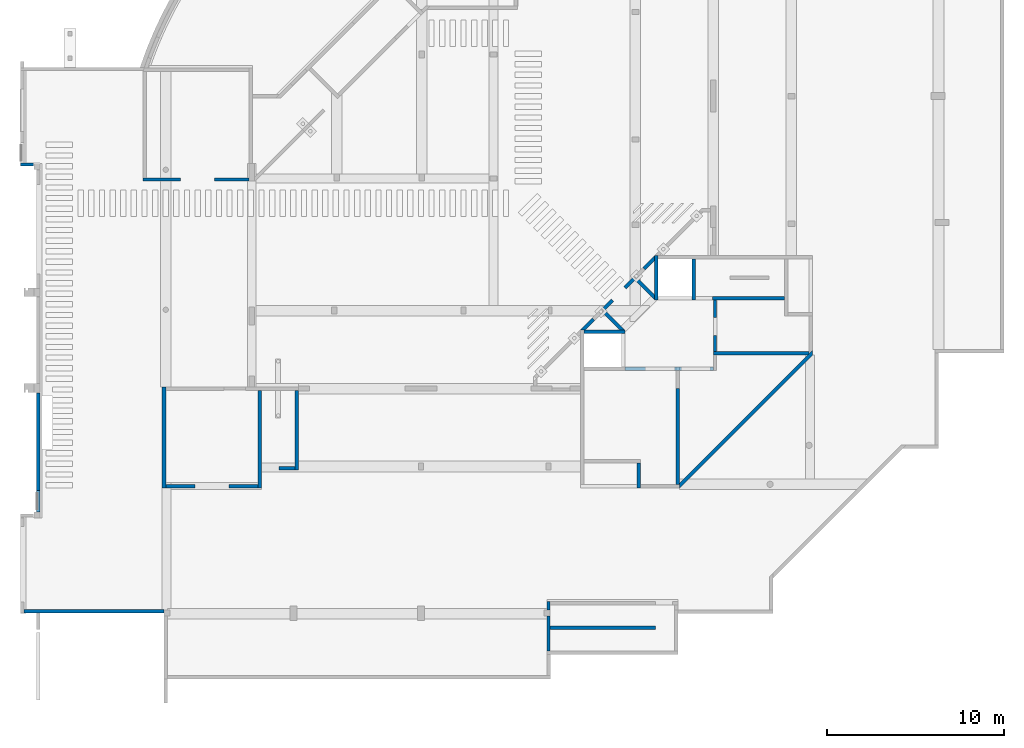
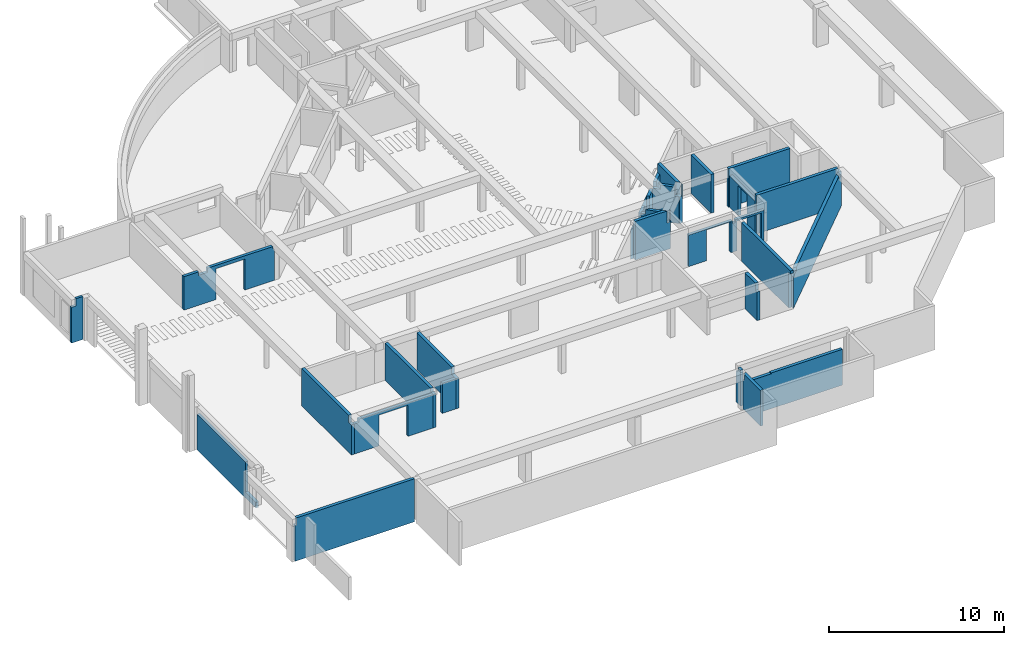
# One storey, part 8 of 12: 27 walls.
"""IFC4X3_ADD2 building model written with IfcOpenShell, lengths in millimetres."""

from ifc_helpers import new_model, si_unit, direction, frame, origin_with_axes, place, context, subcontext, project, spatial, polygons, element, save


model = new_model("IFC4X3_ADD2")

# Units and contexts
model_context = context("Model", 3, precision=1e-05, world=origin_with_axes(), true_north=direction((0.0, 1.0)))
body_context = subcontext(model_context, "Body", "Model", "MODEL_VIEW")
ifc_project = project(units=[si_unit("LENGTHUNIT", "METRE", prefix="MILLI"), si_unit("AREAUNIT", "SQUARE_METRE"), si_unit("VOLUMEUNIT", "CUBIC_METRE"), si_unit("PLANEANGLEUNIT", "RADIAN"), si_unit("TIMEUNIT", "SECOND"), si_unit("MASSUNIT", "GRAM")], contexts=[model_context])

# Site, building, storey
site_placement = place(None, origin_with_axes())
site = spatial("IfcSite", under=ifc_project, at=site_placement, Name="Site", CompositionType="ELEMENT")
building_placement = place(site_placement, origin_with_axes())
building = spatial("IfcBuilding", under=site, at=building_placement, Name="IFC Building Story")
storey_placement = place(building_placement, frame((0.0, 0.0, -5940.0), z_axis=(0.0, 0.0, 1.0), x_axis=(1.0, 0.0, 0.0)))
storey = spatial("IfcBuildingStorey", under=building, at=storey_placement, Name="K20", Elevation=-5940.0)

# Walls
wall_1_placement = place(storey_placement, frame((0.0, 0.0, 5940.0), z_axis=(0.0, 0.0, 1.0), x_axis=(1.0, 0.0, 0.0)))
element("IfcWall", 1, at=wall_1_placement, inside=storey, Name="Basic Wall:BB_XX_Wand uit beton, 200 mm", ObjectType="Basic Wall:BB_XX_Wand uit beton, 200 mm", PredefinedType="SOLIDWALL", context=body_context, shape_type="Tessellation", body=[
    polygons([(-43595.0, 130.0, -6340.0), (-51494.99999999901, 130.0, -6340.0), (-51494.99999999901, 129.9999999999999, -3840.0), (-51394.99965847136, 130.0, -3840.0), (-51394.99965847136, 130.0, -3340.0), (-43699.99999999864, 130.0, -3340.0), (-43699.99999999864, 130.0, -3840.0), (-43595.0, 130.0, -3840.0), (-51494.99999999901, -70.0, -6340.0), (-50794.99999999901, -70.0, -6340.0), (-50604.99999999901, -70.0, -6340.0), (-43595.0, -70.0, -6340.0), (-43595.0, -70.0, -3340.0), (-51394.99965847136, -70.0, -3340.0), (-51394.99965847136, -69.9999999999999, -3840.0), (-51494.99999999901, -70.0, -3840.0), (-43595.0, 95.000000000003, -3840.0), (-43595.0, 95.000000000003, -3340.0), (-43699.99999999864, 95.0000000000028, -3340.0), (-43699.99999999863, 95.0000000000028, -3840.0)], [[[7, 8, 1]], [[7, 1, 4]], [[4, 5, 6]], [[4, 6, 7]], [[1, 2, 4]], [[2, 3, 4]], [[11, 12, 13]], [[11, 13, 14]], [[14, 10, 11]], [[15, 16, 9]], [[15, 9, 10]], [[10, 14, 15]], [[3, 2, 9, 16]], [[5, 4, 15, 14]], [[4, 3, 16, 15]], [[10, 9, 2]], [[2, 11, 10]], [[2, 1, 12]], [[2, 12, 11]], [[17, 18, 13]], [[17, 13, 12]], [[17, 12, 1]], [[1, 8, 17]], [[19, 6, 5]], [[5, 14, 13]], [[5, 13, 19]], [[13, 18, 19]], [[20, 19, 18, 17]], [[20, 17, 8, 7]], [[19, 20, 7, 6]]]),
])
wall_2_placement = place(storey_placement, frame((0.0, 0.0, 5940.0), z_axis=(0.0, 0.0, 1.0), x_axis=(1.0, 0.0, 0.0)))
element("IfcWall", 2, at=wall_2_placement, inside=storey, Name="Basic Wall:BB_XX_Wand uit beton, 200 mm", ObjectType="Basic Wall:BB_XX_Wand uit beton, 200 mm", PredefinedType="SOLIDWALL", context=body_context, shape_type="Tessellation", body=[
    polygons([(-15875.0, -805.0, -5940.0), (-21805.00000000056, -805.0, -5940.0), (-21805.00000000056, -805.0, -3500.0), (-20579.87590418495, -805.0, -3500.0), (-20579.87590418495, -805.0, -3440.0), (-15875.0, -805.0, -3440.0), (-15875.0, -1005.0, -5940.0), (-15875.0, -1005.0, -3440.0), (-20579.87590418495, -1005.0, -3440.0), (-20579.87590418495, -1005.0, -3500.0), (-21805.00000000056, -1005.0, -3500.0), (-21805.00000000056, -1005.0, -5940.0)], [[[4, 5, 6]], [[4, 6, 1]], [[4, 1, 2]], [[2, 3, 4]], [[10, 11, 12]], [[12, 7, 8]], [[12, 8, 10]], [[8, 9, 10]], [[3, 2, 12, 11]], [[2, 1, 7, 12]], [[6, 5, 9, 8]], [[1, 6, 8, 7]], [[4, 3, 11, 10]], [[5, 4, 10, 9]]]),
])
wall_3_placement = place(storey_placement, frame((0.0, 0.0, 5940.0), z_axis=(0.0, 0.0, 1.0), x_axis=(1.0, 0.0, 0.0)))
element("IfcWall", 3, at=wall_3_placement, inside=storey, Name="Basic Wall:BB_XX_Wand uit beton, 200 mm", ObjectType="Basic Wall:BB_XX_Wand uit beton, 200 mm", PredefinedType="SOLIDWALL", context=body_context, shape_type="Tessellation", body=[
    polygons([(-19900.0, 15715.0, -5940.0), (-17594.99999999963, 15715.0, -5940.0), (-17594.99999999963, 15715.0, -3240.0), (-17658.57864376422, 15715.0, -3240.0), (-17658.57864376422, 15715.0, -4070.0), (-17798.92557634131, 15715.0, -4070.0), (-17798.92557634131, 15715.0, -3240.0), (-19900.0, 15715.0, -3240.0), (-17594.99999999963, 15915.0, -5940.0), (-17600.0000000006, 15915.0, -5940.0), (-17868.70057685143, 15915.0, -5940.0), (-19828.04954491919, 15915.0, -5940.0), (-19900.0, 15915.0, -5940.0), (-19900.0, 15915.0, -3240.0), (-17998.92557634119, 15915.0, -3240.0), (-17998.92557634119, 15915.0, -4070.0), (-17594.99999999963, 15915.0, -4070.0), (-17594.99999999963, 15778.57864376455, -4070.0), (-17594.99999999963, 15778.57864376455, -3240.0)], [[[6, 7, 8]], [[8, 1, 2]], [[8, 2, 6]], [[2, 5, 6]], [[2, 3, 5]], [[3, 4, 5]], [[12, 13, 14]], [[16, 11, 12]], [[16, 12, 14]], [[14, 15, 16]], [[16, 17, 10]], [[16, 10, 11]], [[17, 9, 10]], [[10, 9, 2]], [[2, 11, 10]], [[2, 1, 12]], [[2, 12, 11]], [[1, 13, 12]], [[18, 19, 3]], [[18, 3, 2]], [[2, 9, 17]], [[2, 17, 18]], [[4, 3, 19]], [[6, 16, 15, 7]], [[18, 5, 4, 19]], [[16, 6, 5]], [[16, 5, 18]], [[16, 18, 17]], [[13, 1, 8, 14]], [[14, 8, 7, 15]]]),
])
wall_4_placement = place(storey_placement, frame((0.0, 0.0, 5940.0), z_axis=(0.0, 0.0, 1.0), x_axis=(1.0, 0.0, 0.0)))
element("IfcWall", 4, at=wall_4_placement, inside=storey, Name="Basic Wall:BB_XX_Wand uit beton, 200 mm", ObjectType="Basic Wall:BB_XX_Wand uit beton, 200 mm", PredefinedType="SOLIDWALL", context=body_context, shape_type="Tessellation", body=[
    polygons([(-36200.0, 12500.0014785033, -5940.0), (-36200.0, 7999.99999999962, -5940.0), (-36200.0, 7999.99999999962, -3840.0), (-36200.0, 8510.000000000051, -3840.0), (-36200.0, 8510.000000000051, -3340.0), (-36200.0, 12500.0014785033, -3340.0), (-36000.0, 7999.99999999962, -5940.0), (-36000.0, 12450.00000000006, -5940.0), (-36000.0, 12500.0014785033, -5940.0), (-36000.0, 12500.0014785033, -3740.0), (-36000.0, 12500.0014785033, -3340.0), (-36000.0, 8510.000000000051, -3340.0), (-36000.0, 8510.000000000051, -3840.0), (-36000.0, 7999.99999999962, -3840.0)], [[[4, 5, 6]], [[6, 1, 2]], [[6, 2, 4]], [[2, 3, 4]], [[10, 11, 8]], [[8, 9, 10]], [[13, 14, 7]], [[13, 7, 8]], [[13, 8, 11]], [[11, 12, 13]], [[8, 7, 2]], [[8, 2, 1]], [[1, 9, 8]], [[2, 7, 14, 3]], [[11, 6, 5, 12]], [[10, 9, 1]], [[10, 1, 6]], [[6, 11, 10]], [[13, 4, 3, 14]], [[4, 13, 12, 5]]]),
])
wall_5_placement = place(storey_placement, frame((0.0, 0.0, 5940.0), z_axis=(0.0, 0.0, 1.0), x_axis=(1.0, 0.0, 0.0)))
element("IfcWall", 5, at=wall_5_placement, inside=storey, Name="Basic Wall:BB_XX_Wand uit beton, 200 mm", ObjectType="Basic Wall:BB_XX_Wand uit beton, 200 mm", PredefinedType="SOLIDWALL", context=body_context, shape_type="Tessellation", body=[
    polygons([(-38100.0, 7000.0, -5940.0), (-38099.99999999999, 12500.00147850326, -5940.0), (-38099.99999999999, 12500.00147850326, -3340.0), (-38100.0, 7300.000000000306, -3340.0), (-38100.0, 7300.000000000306, -3600.0), (-38100.0, 7000.0, -3600.0), (-38300.0, 12500.00147850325, -5940.0), (-38300.0, 7000.0, -5940.0), (-38300.0, 7000.0, -3600.0), (-38300.0, 7300.000000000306, -3600.0), (-38300.0, 7300.000000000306, -3340.0), (-38300.0, 12500.00147850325, -3340.0)], [[[5, 6, 1]], [[5, 1, 2]], [[5, 2, 3]], [[3, 4, 5]], [[10, 11, 12]], [[12, 7, 8]], [[12, 8, 10]], [[8, 9, 10]], [[2, 1, 8, 7]], [[3, 12, 11, 4]], [[8, 1, 6, 9]], [[3, 2, 7, 12]], [[5, 10, 9, 6]], [[10, 5, 4, 11]]]),
])
wall_6_placement = place(storey_placement, frame((0.0, 0.0, 5940.0), z_axis=(0.0, 0.0, 1.0), x_axis=(1.0, 0.0, 0.0)))
element("IfcWall", 6, at=wall_6_placement, inside=storey, Name="Basic Wall:BB_XX_Wand uit beton, 200 mm", ObjectType="Basic Wall:BB_XX_Wand uit beton, 200 mm", PredefinedType="SOLIDWALL", context=body_context, shape_type="Tessellation", body=[
    polygons([(-43500.00000000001, 7000.0, -5940.0), (-43500.00000000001, 12500.00147850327, -5940.0), (-43500.00000000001, 12700.00147850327, -5940.0), (-43500.00000000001, 12700.00147850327, -3340.0), (-43500.00000000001, 12500.00147850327, -3340.0), (-43500.00000000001, 7300.000000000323, -3340.0), (-43500.00000000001, 7300.000000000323, -3840.0), (-43500.00000000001, 7000.0, -3840.0), (-43700.00000000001, 12700.00147850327, -5940.0), (-43700.00000000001, 7000.0, -5940.0), (-43700.00000000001, 7000.0, -3840.0), (-43700.00000000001, 7300.000000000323, -3840.0), (-43700.00000000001, 7300.000000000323, -3340.0), (-43700.00000000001, 12700.00147850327, -3340.0)], [[[2, 3, 4]], [[2, 4, 5]], [[7, 8, 1]], [[7, 1, 2]], [[7, 2, 5]], [[5, 6, 7]], [[12, 13, 14]], [[14, 9, 10]], [[14, 10, 12]], [[10, 11, 12]], [[2, 1, 10]], [[2, 10, 9]], [[9, 3, 2]], [[5, 4, 14]], [[14, 13, 6]], [[14, 6, 5]], [[10, 1, 8, 11]], [[4, 3, 9, 14]], [[12, 7, 6, 13]], [[7, 12, 11, 8]]]),
])
wall_7_placement = place(storey_placement, frame((0.0, 0.0, 5940.0), z_axis=(0.0, 0.0, 1.0), x_axis=(1.0, 0.0, 0.0)))
element("IfcWall", 7, at=wall_7_placement, inside=storey, Name="Basic Wall:BB_XX_Wand uit beton, 200 mm", ObjectType="Basic Wall:BB_XX_Wand uit beton, 200 mm", PredefinedType="SOLIDWALL", context=body_context, shape_type="Tessellation", body=[
    polygons([(-16900.0, 8400.0, -5940.0), (-16900.0, 7000.00000000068, -5940.0), (-16900.0, 7000.00000000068, -3940.0), (-16900.0, 7200.00000000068, -3940.0), (-16900.0, 7200.00000000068, -3440.0), (-16900.0, 8400.0, -3440.0), (-16700.0, 8400.0, -5940.0), (-16700.0, 8400.0, -3440.0), (-16700.0, 7200.00000000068, -3440.0), (-16700.0, 7200.00000000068, -3940.0), (-16700.0, 7000.00000000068, -3940.0), (-16700.0, 7000.00000000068, -5940.0), (-16700.0, 7200.00000000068, -5940.0)], [[[4, 5, 6]], [[6, 1, 2]], [[6, 2, 4]], [[2, 3, 4]], [[10, 11, 12]], [[10, 12, 13]], [[10, 13, 7]], [[10, 7, 8]], [[8, 9, 10]], [[1, 6, 8, 7]], [[3, 2, 12, 11]], [[13, 12, 2]], [[2, 1, 7]], [[2, 7, 13]], [[6, 5, 9, 8]], [[4, 3, 11, 10]], [[5, 4, 10, 9]]]),
])
wall_8_placement = place(storey_placement, frame((0.0, 0.0, 5940.0), z_axis=(0.0, 0.0, 1.0), x_axis=(1.0, 0.0, 0.0)))
element("IfcWall", 8, at=wall_8_placement, inside=storey, Name="Basic Wall:BB_XX_Wand uit beton, 200 mm", ObjectType="Basic Wall:BB_XX_Wand uit beton, 200 mm", PredefinedType="SOLIDWALL", context=body_context, shape_type="Tessellation", body=[
    polygons([(-14500.0, 7200.000000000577, -5940.0), (-14500.0, 7282.842712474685, -5940.0), (-14500.0, 12600.00000000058, -5940.0), (-14500.0, 12600.00000000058, -3240.0), (-14500.0, 7000.0, -3240.0), (-14500.0, 7000.0, -3440.0), (-14500.0, 7200.000000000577, -3440.0), (-14500.0, 7200.000000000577, -3940.0), (-14700.0, 7200.000000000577, -5940.0), (-14700.0, 7200.000000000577, -3440.0), (-14700.0, 7000.0, -3440.0), (-14700.0, 7000.0, -3240.0), (-14700.0, 12600.00000000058, -3240.0), (-14700.0, 12600.00000000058, -5940.0)], [[[8, 2, 3]], [[8, 3, 4]], [[4, 7, 8]], [[4, 5, 7]], [[5, 6, 7]], [[8, 1, 2]], [[10, 11, 12]], [[10, 12, 13]], [[13, 14, 9]], [[13, 9, 10]], [[2, 1, 9]], [[9, 14, 3]], [[9, 3, 2]], [[4, 3, 14, 13]], [[5, 4, 13, 12]], [[6, 11, 10, 7]], [[8, 7, 10]], [[10, 9, 1]], [[10, 1, 8]], [[6, 5, 12, 11]]]),
])
wall_9_placement = place(storey_placement, frame((0.0, 0.0, 5940.0), z_axis=(0.0, 0.0, 1.0), x_axis=(1.0, 0.0, 0.0)))
element("IfcWall", 9, at=wall_9_placement, inside=storey, Name="Basic Wall:BB_XX_Wand uit beton, 200 mm", ObjectType="Basic Wall:BB_XX_Wand uit beton, 200 mm", PredefinedType="SOLIDWALL", context=body_context, shape_type="Tessellation", body=[
    polygons([(-15715.0, 17600.0, -5940.0), (-15715.0, 19899.99999999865, -5940.0), (-15715.0, 20099.99999999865, -5940.0), (-15715.0, 20099.99999999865, -3240.0), (-15715.0, 19899.99999999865, -3240.0), (-15715.0, 17799.99999999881, -3240.0), (-15715.0, 17799.99999999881, -4070.0), (-15715.0, 17658.57864376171, -4070.0), (-15715.0, 17658.57864376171, -3240.0), (-15715.0, 17600.0, -3240.0), (-15915.0, 20099.99999999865, -5940.0), (-15915.0, 20089.20151523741, -5940.0), (-15915.0, 19828.04954491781, -5940.0), (-15915.0, 17868.70057684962, -5940.0), (-15915.0, 17600.0, -5940.0), (-15915.0, 17600.0, -4070.0), (-15915.0, 17999.99999999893, -4070.0), (-15915.0, 17999.99999999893, -3240.0), (-15915.0, 20099.99999999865, -3240.0), (-15773.57864376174, 17600.0, -3240.0), (-15773.57864376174, 17600.0, -4070.0)], [[[2, 3, 4]], [[2, 4, 5]], [[8, 9, 10]], [[8, 10, 1]], [[1, 7, 8]], [[7, 1, 2]], [[7, 2, 5]], [[5, 6, 7]], [[14, 15, 16]], [[14, 16, 17]], [[17, 18, 19]], [[19, 13, 14]], [[19, 14, 17]], [[19, 12, 13]], [[19, 11, 12]], [[14, 13, 2]], [[14, 2, 1]], [[1, 15, 14]], [[12, 11, 3]], [[3, 2, 13]], [[3, 13, 12]], [[5, 4, 19]], [[19, 18, 6]], [[19, 6, 5]], [[21, 16, 15]], [[21, 15, 1]], [[1, 10, 21]], [[10, 20, 21]], [[17, 7, 6, 18]], [[7, 17, 16]], [[7, 16, 21]], [[7, 21, 8]], [[8, 21, 20, 9]], [[3, 11, 19, 4]], [[10, 9, 20]]]),
])
wall_10_placement = place(storey_placement, frame((0.0, 0.0, 5940.0), z_axis=(0.0, 0.0, 1.0), x_axis=(1.0, 0.0, 0.0)))
element("IfcWall", 10, at=wall_10_placement, inside=storey, Name="Basic Wall:BB_XX_Wand uit beton, 200 mm", ObjectType="Basic Wall:BB_XX_Wand uit beton, 200 mm", PredefinedType="SOLIDWALL", context=body_context, shape_type="Tessellation", body=[
    polygons([(-7200.0, 14700.0, -5940.0), (-12599.99999999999, 14700.0, -5940.0), (-12599.99999999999, 14700.0, -3240.0), (-7200.0, 14700.0, -3240.0), (-7200.0, 14700.0, -3500.0), (-7282.842712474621, 14500.0, -5940.0), (-7282.842712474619, 14500.0, -3500.0), (-7200.0, 14500.0, -3500.0), (-7200.0, 14500.0, -3240.0), (-12599.99999999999, 14500.0, -3240.0), (-12599.99999999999, 14500.0, -5940.0), (-7200.0, 14582.84271247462, -5940.0), (-7200.0, 14582.84271247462, -3240.0), (-7200.0, 14582.84271247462, -3500.0)], [[[5, 1, 2]], [[5, 2, 3]], [[3, 4, 5]], [[7, 8, 9]], [[7, 9, 10]], [[10, 11, 6]], [[10, 6, 7]], [[2, 1, 12]], [[2, 12, 6]], [[2, 6, 11]], [[3, 2, 11, 10]], [[13, 4, 3]], [[13, 3, 10]], [[10, 9, 13]], [[14, 8, 7]], [[1, 5, 14, 12]], [[14, 7, 6, 12]], [[13, 9, 8]], [[13, 8, 14]], [[14, 5, 4]], [[14, 4, 13]]]),
])
wall_11_placement = place(storey_placement, frame((0.0, 0.0, 5940.0), z_axis=(0.0, 0.0, 1.0), x_axis=(1.0, 0.0, 0.0)))
element("IfcWall", 11, at=wall_11_placement, inside=storey, Name="Basic Wall:BB_XX_Wand uit beton, 200 mm", ObjectType="Basic Wall:BB_XX_Wand uit beton, 200 mm", PredefinedType="SOLIDWALL", context=body_context, shape_type="Tessellation", body=[
    polygons([(-8600.0, 17800.0, -5940.0), (-12651.00000000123, 17800.0, -5940.0), (-12651.00000000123, 17800.0, -3880.0), (-12655.00000000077, 17800.0, -3880.0), (-12655.00000000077, 17800.0, -3240.0), (-8600.0, 17800.0, -3240.0), (-12651.00000000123, 17600.0, -5940.0), (-8600.0, 17600.0, -5940.0), (-8600.0, 17600.0, -3240.0), (-12655.00000000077, 17600.0, -3240.0), (-12655.00000000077, 17600.0, -3880.0), (-12651.00000000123, 17600.0, -3880.0)], [[[3, 4, 5]], [[3, 5, 6]], [[6, 1, 2]], [[6, 2, 3]], [[12, 7, 8]], [[12, 8, 9]], [[9, 10, 12]], [[10, 11, 12]], [[1, 6, 9, 8]], [[3, 12, 11, 4]], [[2, 1, 8, 7]], [[9, 6, 5, 10]], [[12, 3, 2, 7]], [[5, 4, 11, 10]]]),
])
wall_12_placement = place(storey_placement, frame((0.0, 0.0, 5940.0), z_axis=(0.0, 0.0, 1.0), x_axis=(1.0, 0.0, 0.0)))
element("IfcWall", 12, at=wall_12_placement, inside=storey, Name="Basic Wall:BB_XX_Wand uit beton, 200 mm", ObjectType="Basic Wall:BB_XX_Wand uit beton, 200 mm", PredefinedType="SOLIDWALL", context=body_context, shape_type="Tessellation", body=[
    polygons([(-13815.0, 19900.0, -5940.0), (-13815.0, 17600.00000000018, -5940.0), (-13815.0, 17600.00000000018, -3240.0), (-13815.0, 19900.0, -3240.0), (-13615.0, 19900.0, -5940.0), (-13615.0, 19900.0, -3240.0), (-13615.0, 17600.00000000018, -3240.0), (-13615.0, 17600.00000000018, -5940.0)], [[[1, 2, 3, 4]], [[5, 6, 7, 8]], [[2, 1, 5, 8]], [[4, 3, 7, 6]], [[1, 4, 6, 5]], [[3, 2, 8, 7]]]),
])
wall_13_placement = place(storey_placement, frame((0.0, 0.0, 5940.0), z_axis=(0.0, 0.0, 1.0), x_axis=(1.0, 0.0, 0.0)))
element("IfcWall", 13, at=wall_13_placement, inside=storey, Name="Basic Wall:BB_XX_Wand uit beton, 190 mm", ObjectType="Basic Wall:BB_XX_Wand uit beton, 190 mm", PredefinedType="SOLIDWALL", context=body_context, shape_type="Tessellation", body=[
    polygons([(-21805.0, -2205.0, -5940.0), (-21805.0, -1005.0, -5940.0), (-21805.0, -805.0, -5940.0), (-21805.0, -245.00000000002, -5940.0), (-21805.0, -245.00000000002, -3440.0), (-21805.0, -2205.0, -3440.0), (-21995.0, -245.00000000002, -5940.0), (-21995.0, -2205.0, -5940.0), (-21995.0, -2205.0, -3440.0), (-21995.0, -405.00000000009, -3440.0), (-21995.0, -405.00000000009, -3840.0), (-21995.0, -245.00000000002, -3840.0), (-21974.99999999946, -245.00000000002, -3840.0), (-21974.99999999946, -245.00000000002, -3440.0), (-21974.99999999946, -405.00000000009, -3440.0), (-21974.99999999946, -405.00000000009, -3840.0)], [[[3, 4, 5]], [[5, 2, 3]], [[5, 6, 1]], [[5, 1, 2]], [[11, 12, 7]], [[11, 7, 8]], [[11, 8, 9]], [[9, 10, 11]], [[2, 1, 8]], [[2, 8, 7]], [[7, 3, 2]], [[7, 4, 3]], [[13, 14, 5]], [[5, 4, 7]], [[5, 7, 13]], [[7, 12, 13]], [[15, 10, 9]], [[9, 6, 5]], [[9, 5, 15]], [[5, 14, 15]], [[1, 6, 9, 8]], [[13, 16, 15, 14]], [[15, 16, 11, 10]], [[16, 13, 12, 11]]]),
])
wall_14_placement = place(storey_placement, frame((0.0, 0.0, 5940.0), z_axis=(0.0, 0.0, 1.0), x_axis=(1.0, 0.0, 0.0)))
element("IfcWall", 14, at=wall_14_placement, inside=storey, Name="Basic Wall:BB_XX_Wand uit beton, 170 mm", ObjectType="Basic Wall:BB_XX_Wand uit beton, 170 mm", PredefinedType="SOLIDWALL", context=body_context, shape_type="Tessellation", body=[
    polygons([(-21805.0, 95.0, -5940.0), (-21805.0, 394.999999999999, -5940.0), (-21805.0, 594.999999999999, -5940.0), (-21805.0, 594.999999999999, -3750.0), (-21805.0, 394.999999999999, -3750.0), (-21805.0, 394.999999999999, -3440.0), (-21805.0, 95.0, -3440.0), (-21975.0, 595.0, -5940.0), (-21975.0, 95.0, -5940.0), (-21975.0, 95.0, -3440.0), (-21975.0, 395.0, -3440.0), (-21975.00000000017, 395.0, -3750.0), (-21975.0, 595.0, -3750.0)], [[[2, 3, 4]], [[2, 4, 5]], [[5, 6, 7]], [[7, 1, 2]], [[7, 2, 5]], [[12, 13, 8]], [[8, 9, 10]], [[8, 10, 12]], [[10, 11, 12]], [[2, 1, 9]], [[2, 9, 8]], [[8, 3, 2]], [[10, 7, 6, 11]], [[1, 7, 10, 9]], [[3, 8, 13, 4]], [[5, 12, 11, 6]], [[12, 5, 4, 13]]]),
])
wall_15_placement = place(storey_placement, frame((0.0, 0.0, 5940.0), z_axis=(0.0, 0.0, 1.0), x_axis=(1.0, 0.0, 0.0)))
element("IfcWall", 15, at=wall_15_placement, inside=storey, Name="Basic Wall:BB_XX_Wand uit beton, 170 mm", ObjectType="Basic Wall:BB_XX_Wand uit beton, 170 mm", PredefinedType="SOLIDWALL", context=body_context, shape_type="Tessellation", body=[
    polygons([(-50955.0, 25330.0, -6340.0), (-51694.99999999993, 25330.0, -6340.0), (-51694.99999999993, 25330.0, -3840.0), (-51394.99999999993, 25330.00000000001, -3840.0), (-51394.99999999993, 25330.00000000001, -3340.0), (-50955.0, 25330.0, -3340.0), (-51694.99999999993, 25160.0, -6340.0), (-50955.0, 25160.0, -6340.0), (-50955.0, 25160.0, -3340.0), (-51394.99999999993, 25160.00000000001, -3340.0), (-51394.99999999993, 25160.00000000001, -3840.0), (-51694.99999999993, 25160.0, -3840.0)], [[[4, 5, 6]], [[4, 6, 1]], [[4, 1, 2]], [[2, 3, 4]], [[11, 12, 7]], [[7, 8, 9]], [[7, 9, 11]], [[9, 10, 11]], [[2, 1, 8, 7]], [[2, 7, 12, 3]], [[9, 6, 5, 10]], [[1, 6, 9, 8]], [[4, 11, 10, 5]], [[11, 4, 3, 12]]]),
])
wall_16_placement = place(storey_placement, frame((0.0, 0.0, 5940.0), z_axis=(0.0, 0.0, 1.0), x_axis=(1.0, 0.0, 0.0)))
element("IfcWall", 16, at=wall_16_placement, inside=storey, Name="Basic Wall:BB_XX_Wand uit metselwerk, 190 mm", ObjectType="Basic Wall:BB_XX_Wand uit metselwerk, 190 mm", PredefinedType="SOLIDWALL", context=body_context, shape_type="Tessellation", body=[
    polygons([(-17600.0, 13625.0, -5940.0), (-16420.00000000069, 13625.0, -5940.0), (-16420.00000000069, 13625.0, -3780.0), (-14800.00000000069, 13625.0, -3780.0), (-14800.00000000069, 13625.0, -5940.0), (-14392.0000000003, 13625.0, -5940.0), (-14392.0000000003, 13625.0, -3880.0), (-12782.0000000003, 13625.0, -3880.0), (-12782.0000000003, 13625.0, -5940.0), (-12600.00000000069, 13625.0, -5940.0), (-12600.00000000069, 13625.0, -3940.0), (-12600.00000000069, 13625.0, -3740.0), (-14500.00000000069, 13625.0, -3740.0), (-14500.00000000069, 13625.0, -3940.0), (-14700.00000000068, 13625.0, -3940.0), (-14700.00000000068, 13625.0, -3740.0), (-17600.0, 13625.0, -3740.0), (-16420.00000000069, 13815.0, -5940.0), (-17600.0, 13815.0, -5940.0), (-17600.0, 13815.0, -3740.0), (-14700.00000000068, 13815.0, -3740.0), (-14700.00000000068, 13814.99999999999, -3940.0), (-14500.00000000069, 13814.99999999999, -3940.0), (-14500.00000000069, 13815.0, -3740.0), (-12600.00000000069, 13815.0, -3740.0), (-12600.00000000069, 13815.0, -5940.0), (-12782.0000000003, 13815.0, -5940.0), (-12782.0000000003, 13815.0, -3880.0), (-14392.0000000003, 13815.0, -3880.0), (-14392.0000000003, 13815.0, -5940.0), (-14800.00000000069, 13815.0, -5940.0), (-14800.00000000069, 13815.0, -3780.0), (-16420.00000000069, 13815.0, -3780.0)], [[[11, 12, 8]], [[8, 9, 10]], [[8, 10, 11]], [[12, 13, 7]], [[12, 7, 8]], [[13, 14, 7]], [[15, 16, 4]], [[15, 4, 5]], [[5, 6, 14]], [[5, 14, 15]], [[6, 7, 14]], [[16, 3, 4]], [[16, 17, 3]], [[17, 1, 2]], [[17, 2, 3]], [[29, 23, 24]], [[24, 25, 28]], [[24, 28, 29]], [[25, 26, 27]], [[25, 27, 28]], [[23, 29, 30]], [[30, 31, 22]], [[30, 22, 23]], [[31, 32, 22]], [[33, 18, 19]], [[33, 19, 20]], [[33, 20, 21]], [[21, 32, 33]], [[21, 22, 32]], [[29, 7, 6, 30]], [[8, 28, 27, 9]], [[7, 29, 28, 8]], [[11, 10, 26]], [[11, 26, 25]], [[25, 12, 11]], [[23, 14, 13, 24]], [[14, 23, 22, 15]], [[15, 22, 21, 16]], [[2, 1, 19, 18]], [[12, 25, 24, 13]], [[1, 17, 20, 19]], [[3, 2, 18, 33]], [[4, 3, 33, 32]], [[5, 4, 32, 31]], [[26, 10, 9, 27]], [[5, 31, 30, 6]], [[20, 17, 16, 21]]]),
])
wall_17_placement = place(storey_placement, frame((0.0, 0.0, 5940.0), z_axis=(0.0, 0.0, 1.0), x_axis=(1.0, 0.0, 0.0)))
element("IfcWall", 17, at=wall_17_placement, inside=storey, Name="Basic Wall:BB_XX_Wand uit metselwerk, 190 mm", ObjectType="Basic Wall:BB_XX_Wand uit metselwerk, 190 mm", PredefinedType="SOLIDWALL", context=body_context, shape_type="Tessellation", body=[
    polygons([(-12410.0, 17599.99999999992, -5940.0), (-12410.0, 17599.99999999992, -3740.0), (-12410.0, 14700.0, -3740.0), (-12410.0, 14700.0, -5940.0), (-12410.0, 15595.00000000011, -5940.0), (-12410.0, 15595.00000000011, -3870.0), (-12410.0, 16615.00000000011, -3870.0), (-12410.0, 16615.00000000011, -5940.0), (-12600.0, 17599.99999999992, -3740.0), (-12600.0, 17599.99999999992, -5940.0), (-12600.0, 16615.00000000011, -5940.0), (-12600.0, 16615.00000000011, -3870.0), (-12600.0, 15595.00000000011, -3870.0), (-12600.0, 15595.00000000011, -5940.0), (-12600.0, 14700.0, -5940.0), (-12600.0, 14700.0, -3740.0)], [[[7, 8, 1]], [[7, 1, 2]], [[2, 3, 6]], [[2, 6, 7]], [[3, 4, 5]], [[3, 5, 6]], [[13, 14, 15]], [[13, 15, 16]], [[16, 9, 12]], [[16, 12, 13]], [[9, 10, 11]], [[9, 11, 12]], [[4, 15, 14, 5]], [[2, 1, 10, 9]], [[3, 2, 9, 16]], [[4, 3, 16, 15]], [[7, 12, 11, 8]], [[13, 6, 5, 14]], [[12, 7, 6, 13]], [[10, 1, 8, 11]]]),
])
wall_18_placement = place(storey_placement, frame((0.0, 0.0, 5940.0), z_axis=(0.0, 0.0, 1.0), x_axis=(1.0, 0.0, 0.0)))
element("IfcWall", 18, at=wall_18_placement, inside=storey, Name="Basic Wall:BB_XX_Wand uit beton, 200 mm", ObjectType="Basic Wall:BB_XX_Wand uit beton, 200 mm", PredefinedType="SOLIDWALL", context=body_context, shape_type="Tessellation", body=[
    polygons([(-14499.99999999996, 7282.84271247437, -3740.0), (-14282.84271247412, 7500.000000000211, -3740.0), (-14282.84271247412, 7500.000000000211, -3500.0), (-7400.000000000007, 14382.84271247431, -3500.0), (-7400.000000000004, 14382.84271247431, -3740.0), (-7282.842712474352, 14499.99999999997, -3740.0), (-7282.842712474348, 14499.99999999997, -3500.0), (-7199.999999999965, 14582.84271247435, -3500.0), (-6999.999999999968, 14782.84271247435, -3500.0), (-6999.999999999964, 14782.84271247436, -5940.0), (-7199.999999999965, 14582.84271247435, -5940.0), (-7282.842712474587, 14499.99999999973, -5940.0), (-14499.99999999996, 7282.842712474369, -5940.0), (-14499.99999999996, 6999.999999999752, -5940.0), (-6999.999999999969, 14499.99999999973, -5940.0), (-6999.999999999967, 14499.99999999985, -3740.0), (-7400.000000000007, 14099.99999999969, -3740.0), (-7400.000000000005, 14099.99999999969, -3500.0), (-13999.9999999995, 7500.000000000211, -3500.0), (-13999.9999999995, 7500.000000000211, -3740.0), (-14499.99999999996, 6999.999999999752, -3740.0), (-14499.99999999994, 7200.00000000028, -5940.0), (-6999.999999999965, 14499.99999999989, -3500.0)], [[[2, 3, 4]], [[2, 4, 5]], [[8, 9, 6]], [[6, 7, 8]], [[11, 12, 5]], [[11, 5, 6]], [[6, 9, 10]], [[6, 10, 11]], [[12, 13, 2]], [[12, 2, 5]], [[13, 1, 2]], [[17, 18, 19]], [[20, 21, 14]], [[20, 14, 15]], [[20, 15, 17]], [[17, 19, 20]], [[15, 16, 17]], [[11, 10, 15]], [[15, 12, 11]], [[15, 22, 13]], [[15, 13, 12]], [[15, 14, 22]], [[3, 19, 18, 4]], [[20, 2, 1, 21]], [[2, 20, 19, 3]], [[16, 15, 10]], [[16, 10, 9]], [[9, 23, 16]], [[22, 14, 21]], [[22, 21, 1]], [[1, 13, 22]], [[6, 16, 23, 7]], [[17, 5, 4, 18]], [[16, 6, 5, 17]], [[23, 9, 8, 7]]]),
])
wall_19_placement = place(storey_placement, frame((0.0, 0.0, 5940.0), z_axis=(0.0, 0.0, 1.0), x_axis=(1.0, 0.0, 0.0)))
element("IfcWall", 19, at=wall_19_placement, inside=storey, Name="Basic Wall:BB_XX_Wand uit beton, 190 mm", ObjectType="Basic Wall:BB_XX_Wand uit beton, 190 mm", PredefinedType="SOLIDWALL", context=body_context, shape_type="Tessellation", body=[
    polygons([(-50604.99999999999, 5645.0, -6339.999999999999), (-50604.99999999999, 12355.0, -6339.999999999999), (-50604.99999999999, 12355.0, -3840.0), (-50604.99999999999, 6845.0, -3840.0), (-50604.99999999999, 6845.0, -5939.999999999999), (-50604.99999999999, 5645.0, -5939.999999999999), (-50794.99999999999, 12355.0, -6339.999999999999), (-50794.99999999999, 5645.0, -6339.999999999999), (-50794.99999999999, 5645.0, -5939.999999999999), (-50794.99999999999, 6845.0, -5939.999999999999), (-50794.99999999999, 6845.0, -3840.0), (-50794.99999999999, 12355.0, -3840.0)], [[[5, 6, 1]], [[5, 1, 2]], [[2, 3, 4]], [[2, 4, 5]], [[10, 11, 12]], [[10, 12, 7]], [[7, 8, 10]], [[8, 9, 10]], [[2, 1, 8, 7]], [[3, 2, 7, 12]], [[3, 12, 11, 4]], [[8, 1, 6, 9]], [[5, 10, 9, 6]], [[10, 5, 4, 11]]]),
])
wall_20_placement = place(storey_placement, frame((0.0, 0.0, 5940.0), z_axis=(0.0, 0.0, 1.0), x_axis=(1.0, 0.0, 0.0)))
element("IfcWall", 20, at=wall_20_placement, inside=storey, Name="Basic Wall:BB_03.09.24#05_Wand uit metselwerk_EI60, 190 mm", ObjectType="Basic Wall:BB_03.09.24#05_Wand uit metselwerk_EI60, 190 mm", PredefinedType="SOLIDWALL", context=body_context, shape_type="Tessellation", body=[
    polygons([(-44774.99999999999, 24490.0, -5940.0), (-44774.99999999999, 24490.0, -3600.0), (-44584.99999999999, 24490.0, -3600.0), (-43800.00000000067, 24490.0, -3600.0), (-43800.00000000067, 24490.0, -3840.0), (-43200.00000000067, 24490.0, -3840.0), (-43200.00000000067, 24490.0, -3550.0), (-38900.00000000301, 24490.0, -3550.0), (-38900.00000000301, 24490.0, -3740.0), (-38800.0, 24490.0, -3740.0), (-38800.0, 24490.0, -5940.0), (-40740.00000000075, 24490.0, -5940.0), (-40740.00000000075, 24490.0, -3780.0), (-42660.00000000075, 24490.0, -3780.0), (-42660.00000000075, 24490.0, -5940.0), (-44584.99999999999, 24490.0, -5940.0), (-44774.99999999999, 24300.0, -3600.0), (-44774.99999999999, 24300.0, -5940.0), (-42660.00000000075, 24300.0, -5940.0), (-42660.00000000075, 24300.0, -3780.0), (-40740.00000000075, 24300.0, -3780.0), (-40740.00000000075, 24300.0, -5940.0), (-38800.0, 24300.0, -5940.0), (-38800.0, 24300.0, -3740.0), (-38900.00000000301, 24300.0, -3740.0), (-38900.00000000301, 24300.0, -3550.0), (-43200.00000000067, 24300.0, -3550.0), (-43200.00000000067, 24300.0, -3840.0), (-43800.00000000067, 24300.0, -3840.0), (-43800.00000000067, 24300.0, -3600.0)], [[[9, 10, 11]], [[14, 6, 7]], [[7, 8, 13]], [[7, 13, 14]], [[9, 11, 12]], [[9, 12, 13]], [[13, 8, 9]], [[6, 14, 15]], [[15, 5, 6]], [[15, 16, 3]], [[15, 3, 5]], [[3, 4, 5]], [[16, 1, 2]], [[16, 2, 3]], [[25, 26, 21]], [[21, 22, 23]], [[21, 23, 25]], [[23, 24, 25]], [[26, 27, 20]], [[26, 20, 21]], [[29, 30, 17]], [[29, 17, 18]], [[29, 18, 19]], [[19, 28, 29]], [[19, 20, 28]], [[20, 27, 28]], [[2, 1, 18, 17]], [[11, 23, 22, 12]], [[23, 11, 10, 24]], [[3, 2, 17]], [[17, 30, 4]], [[17, 4, 3]], [[5, 4, 30, 29]], [[6, 5, 29, 28]], [[7, 6, 28, 27]], [[7, 27, 26, 8]], [[13, 21, 20, 14]], [[14, 20, 19, 15]], [[21, 13, 12, 22]], [[9, 25, 24, 10]], [[25, 9, 8, 26]], [[16, 15, 19]], [[16, 19, 18]], [[18, 1, 16]]]),
])
wall_21_placement = place(storey_placement, frame((0.0, 0.0, 5940.0), z_axis=(0.0, 0.0, 1.0), x_axis=(1.0, 0.0, 0.0)))
element("IfcWall", 21, at=wall_21_placement, inside=storey, Name="Basic Wall:BB_03.09.24#05_Wand uit metselwerk_EI60, 190 mm", ObjectType="Basic Wall:BB_03.09.24#05_Wand uit metselwerk_EI60, 190 mm", PredefinedType="SOLIDWALL", context=body_context, shape_type="Tessellation", body=[
    polygons([(-15914.99999999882, 17880.35190484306, -5940.0), (-16888.84882003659, 18854.20072488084, -5940.0), (-16888.84882003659, 18854.20072488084, -3740.0), (-16700.00000000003, 18665.35190484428, -3740.0), (-16700.00000000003, 18665.35190484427, -3440.0), (-15986.95608193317, 17952.30798677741, -3440.0), (-15986.95608193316, 17952.30798677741, -4070.0), (-15914.99999999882, 17880.35190484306, -4070.0), (-17023.19910846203, 18719.85043645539, -5940.0), (-15914.99999999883, 17611.65132799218, -5940.0), (-15914.99999999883, 17611.65132799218, -4070.0), (-16121.30637035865, 17817.95769835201, -4070.0), (-16121.30637035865, 17817.95769835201, -3440.0), (-16700.00000000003, 18396.65132799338, -3440.0), (-16700.00000000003, 18396.65132799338, -3740.0), (-17023.19910846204, 18719.8504364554, -3740.0)], [[[7, 8, 1]], [[1, 4, 7]], [[4, 5, 6]], [[4, 6, 7]], [[1, 2, 3]], [[1, 3, 4]], [[15, 16, 12]], [[12, 13, 14]], [[12, 14, 15]], [[16, 9, 10]], [[16, 10, 12]], [[10, 11, 12]], [[2, 1, 10, 9]], [[2, 9, 16, 3]], [[13, 6, 5, 14]], [[10, 1, 8, 11]], [[7, 12, 11, 8]], [[12, 7, 6, 13]], [[15, 4, 3, 16]], [[4, 15, 14, 5]]]),
])
wall_22_placement = place(storey_placement, frame((0.0, 0.0, 5940.0), z_axis=(0.0, 0.0, 1.0), x_axis=(1.0, 0.0, 0.0)))
element("IfcWall", 22, at=wall_22_placement, inside=storey, Name="Basic Wall:BB_03.09.24#05_Wand uit metselwerk_EI60, 190 mm", ObjectType="Basic Wall:BB_03.09.24#05_Wand uit metselwerk_EI60, 190 mm", PredefinedType="SOLIDWALL", context=body_context, shape_type="Tessellation", body=[
    polygons([(-17611.65132797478, 15914.99999999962, -5940.0), (-18719.85043644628, 17023.19910847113, -5940.0), (-18719.85043644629, 17023.19910847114, -3740.0), (-18396.65132797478, 16699.99999999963, -3740.0), (-18396.65132797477, 16699.99999999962, -3440.0), (-17817.95769834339, 16121.30637036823, -3440.0), (-17817.95769834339, 16121.30637036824, -4070.0), (-17611.65132797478, 15914.99999999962, -4070.0), (-18854.20072487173, 16888.84882004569, -5940.0), (-17880.35190482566, 15914.99999999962, -5940.0), (-17880.35190482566, 15914.99999999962, -4070.0), (-17952.30798676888, 15986.95608194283, -4070.0), (-17952.30798676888, 15986.95608194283, -3440.0), (-18665.35190482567, 16699.99999999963, -3440.0), (-18665.35190482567, 16699.99999999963, -3740.0), (-18854.20072487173, 16888.8488200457, -3740.0)], [[[7, 8, 1]], [[1, 4, 7]], [[4, 5, 6]], [[4, 6, 7]], [[1, 2, 3]], [[1, 3, 4]], [[15, 16, 12]], [[12, 13, 14]], [[12, 14, 15]], [[16, 9, 10]], [[16, 10, 12]], [[10, 11, 12]], [[2, 1, 10, 9]], [[2, 9, 16, 3]], [[13, 6, 5, 14]], [[10, 1, 8, 11]], [[7, 12, 11, 8]], [[12, 7, 6, 13]], [[4, 15, 14, 5]], [[15, 4, 3, 16]]]),
])
wall_23_placement = place(storey_placement, frame((0.0, 0.0, 5940.0), z_axis=(0.0, 0.0, 1.0), x_axis=(1.0, 0.0, 0.0)))
element("IfcWall", 23, at=wall_23_placement, inside=storey, Name="Basic Wall:BB_03.09.24#05_Wand uit metselwerk_EI60, 190 mm", ObjectType="Basic Wall:BB_03.09.24#05_Wand uit metselwerk_EI60, 190 mm", PredefinedType="SOLIDWALL", context=body_context, shape_type="Tessellation", body=[
    polygons([(-19295.83652733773, 16447.21301757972, -5940.0), (-19295.83652733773, 16447.21301757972, -3840.0), (-19828.04954491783, 15914.99999999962, -3840.0), (-19828.04954491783, 15914.99999999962, -5940.0), (-19430.18681576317, 16581.56330600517, -3840.0), (-19430.18681576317, 16581.56330600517, -5940.0), (-20096.75012176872, 15914.99999999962, -5940.0), (-20096.75012176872, 15914.99999999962, -3840.0), (-19899.99999999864, 15914.99999999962, -5940.0)], [[[1, 2, 3, 4]], [[5, 6, 7, 8]], [[9, 7, 6]], [[6, 1, 4]], [[6, 4, 9]], [[2, 1, 6, 5]], [[2, 5, 8, 3]], [[9, 4, 3]], [[3, 8, 7]], [[3, 7, 9]]]),
])
wall_24_placement = place(storey_placement, frame((0.0, 0.0, 5940.0), z_axis=(0.0, 0.0, 1.0), x_axis=(1.0, 0.0, 0.0)))
element("IfcWall", 24, at=wall_24_placement, inside=storey, Name="Basic Wall:BB_03.09.24#05_Wand uit metselwerk_EI60, 190 mm", ObjectType="Basic Wall:BB_03.09.24#05_Wand uit metselwerk_EI60, 190 mm", PredefinedType="SOLIDWALL", context=body_context, shape_type="Tessellation", body=[
    polygons([(-18765.50644144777, 16977.54310346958, -3840.0), (-18765.50644144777, 16977.54310346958, -5940.0), (-18221.54262914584, 17521.50691577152, -5940.0), (-18221.54262914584, 17521.50691577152, -3840.0), (-17109.84103956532, 18901.90908220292, -5940.0), (-18899.85672987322, 17111.89339189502, -5940.0), (-18899.85672987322, 17111.89339189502, -3840.0), (-17109.84103956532, 18901.90908220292, -3840.0), (-16975.49075113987, 18767.55879377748, -5940.0), (-17521.50691577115, 18221.5426291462, -5940.0), (-17653.20669828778, 18353.24241166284, -5940.0), (-18353.24241166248, 17653.20669828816, -5940.0), (-16975.49075113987, 18767.55879377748, -3840.0), (-18353.24241166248, 17653.20669828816, -3840.0), (-17653.20669828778, 18353.24241166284, -3840.0), (-17521.50691577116, 18221.5426291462, -3840.0)], [[[1, 2, 3, 4]], [[5, 6, 7, 8]], [[12, 3, 2]], [[12, 2, 6]], [[6, 11, 12]], [[6, 5, 11]], [[5, 9, 10]], [[5, 10, 11]], [[13, 9, 5, 8]], [[15, 16, 13]], [[15, 13, 8]], [[8, 14, 15]], [[8, 7, 14]], [[7, 1, 4]], [[7, 4, 14]], [[2, 1, 7, 6]], [[14, 12, 11, 15]], [[15, 11, 10, 16]], [[12, 14, 4, 3]], [[9, 13, 16, 10]]]),
])
wall_25_placement = place(storey_placement, frame((0.0, 0.0, 5940.0), z_axis=(0.0, 0.0, 1.0), x_axis=(1.0, 0.0, 0.0)))
element("IfcWall", 25, at=wall_25_placement, inside=storey, Name="Basic Wall:BB_03.09.24#05_Wand uit metselwerk_EI60, 190 mm", ObjectType="Basic Wall:BB_03.09.24#05_Wand uit metselwerk_EI60, 190 mm", PredefinedType="SOLIDWALL", context=body_context, shape_type="Tessellation", body=[
    polygons([(-16442.65994612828, 19300.38959878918, -3840.0), (-16442.65994612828, 19300.38959878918, -5940.0), (-15914.99999999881, 19828.04954491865, -5940.0), (-15914.99999999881, 19828.04954491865, -3840.0), (-15918.77430326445, 20092.9758185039, -5940.0), (-16577.01023455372, 19434.73988721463, -5940.0), (-16577.01023455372, 19434.73988721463, -3840.0), (-15918.77430326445, 20092.9758185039, -3840.0), (-15914.99999999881, 20089.20151523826, -5940.0), (-15914.99999999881, 20089.20151523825, -3840.0)], [[[1, 2, 3, 4]], [[5, 6, 7, 8]], [[6, 5, 9]], [[6, 9, 3]], [[6, 3, 2]], [[5, 8, 10, 9]], [[8, 7, 1]], [[8, 1, 4]], [[8, 4, 10]], [[2, 1, 7, 6]], [[4, 3, 9, 10]]]),
])
wall_26_placement = place(storey_placement, frame((0.0, 0.0, 5940.0), z_axis=(0.0, 0.0, 1.0), x_axis=(1.0, 0.0, 0.0)))
element("IfcWall", 26, at=wall_26_placement, inside=storey, Name="Basic Wall:BB_03.09.24#05_Wand uit metselwerk_EI60, 190 mm", ObjectType="Basic Wall:BB_03.09.24#05_Wand uit metselwerk_EI60, 190 mm", PredefinedType="SOLIDWALL", context=body_context, shape_type="Tessellation", body=[
    polygons([(-36200.0, 8190.0, -3840.0), (-36200.0, 8190.0, -5940.0), (-37109.99999999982, 8190.0, -5940.0), (-37109.99999999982, 8190.0, -3840.0), (-36200.0, 8000.0, -5940.0), (-36200.0, 8000.0, -3840.0), (-37109.99999999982, 8000.0, -3840.0), (-37109.99999999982, 8000.0, -5940.0)], [[[1, 2, 3, 4]], [[5, 6, 7, 8]], [[2, 5, 8, 3]], [[6, 1, 4, 7]], [[2, 1, 6, 5]], [[4, 3, 8, 7]]]),
])
wall_27_placement = place(storey_placement, frame((0.0, 0.0, 5940.0), z_axis=(0.0, 0.0, 1.0), x_axis=(1.0, 0.0, 0.0)))
element("IfcWall", 27, at=wall_27_placement, inside=storey, Name="Basic Wall:BB_03.09.24#05_Wand uit metselwerk_EI60, 190 mm", ObjectType="Basic Wall:BB_03.09.24#05_Wand uit metselwerk_EI60, 190 mm", PredefinedType="SOLIDWALL", context=body_context, shape_type="Tessellation", body=[
    polygons([(-38300.00000000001, 7190.0, -3600.0), (-38300.00000000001, 7190.0, -5940.0), (-39940.0, 7190.0, -5940.0), (-39940.0, 7189.999999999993, -3780.0), (-41860.00000000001, 7189.99999999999, -3780.0), (-41860.00000000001, 7190.0, -5940.0), (-43500.00000000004, 7190.0, -5940.0), (-43500.00000000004, 7190.0, -3840.0), (-43200.00000000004, 7189.999999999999, -3840.0), (-43200.00000000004, 7189.999999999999, -3600.0), (-38300.00000000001, 7000.0, -5940.0), (-38300.00000000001, 7000.0, -3600.0), (-43200.00000000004, 6999.999999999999, -3600.0), (-43200.00000000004, 6999.999999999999, -3840.0), (-43500.00000000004, 7000.0, -3840.0), (-43500.00000000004, 7000.0, -5940.0), (-41860.00000000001, 7000.0, -5940.0), (-41860.00000000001, 6999.99999999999, -3780.0), (-39940.0, 6999.999999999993, -3780.0), (-39940.0, 7000.0, -5940.0)], [[[9, 10, 5]], [[9, 5, 6]], [[9, 6, 7]], [[7, 8, 9]], [[10, 1, 4]], [[10, 4, 5]], [[1, 2, 3]], [[1, 3, 4]], [[14, 15, 16]], [[16, 17, 18]], [[16, 18, 14]], [[19, 20, 11]], [[19, 11, 12]], [[12, 13, 18]], [[12, 18, 19]], [[13, 14, 18]], [[2, 11, 20, 3]], [[7, 16, 15, 8]], [[12, 1, 10, 13]], [[2, 1, 12, 11]], [[4, 19, 18, 5]], [[5, 18, 17, 6]], [[19, 4, 3, 20]], [[9, 14, 13, 10]], [[14, 9, 8, 15]], [[16, 7, 6, 17]]]),
])

save(model, "model.ifc")
